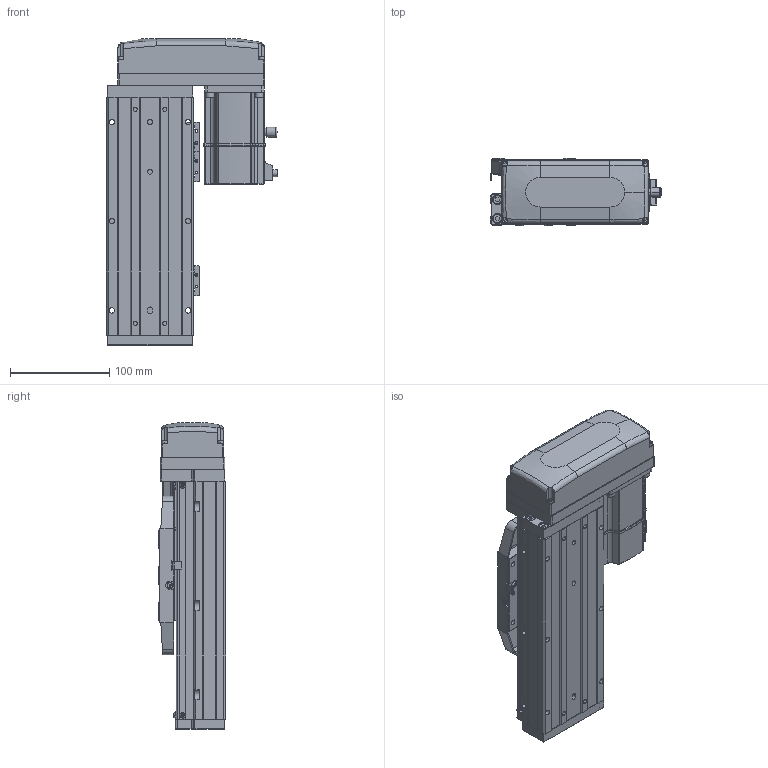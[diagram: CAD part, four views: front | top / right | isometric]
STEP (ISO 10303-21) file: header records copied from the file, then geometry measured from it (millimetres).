
FILE_DESCRIPTION (( 'STEP AP203' ), '1' );
FILE_NAME ('CTHA86-50-BL-M20-C4L.step', '2022-04-26T00:51:23', ( '微软用户' ), ( '微软中国' ), 'SwSTEP 2.0', 'SolidWorks 2020', '' );
FILE_SCHEMA (( 'CONFIG_CONTROL_DESIGN' ));
Length unit declared in the file: millimetre
Products named in the file (21): GBT77-2000 M3×3; CTHA86-002; KTHA86-004; GBT 70.1-M3×20; CTHA86-031; KTHA86-005; GBT70.1 M5℅16; CTHA86-030; GB¨uT 70.2-M3¡Á5_M3¡Á6; GBT 70.1-M3×16; GBT 70.3-M3℅6; EE_SX911P_R; GBT 70.1-M3℅6; CTHA86-015-1_CTHA86-015-2; CTHA60-017; CTHA60-016; CTHA86-033; CTHA60-021; _X2_4E0983F1_X0_200W_1; CTHA86-50-BL-M20-C4L; KTHA86-001_240
Assembly tree (66 placements, depth 2):
  CTHA86-50-BL-M20-C4L
    KTHA86-001_240
    KTHA86-004
    KTHA86-005
    GB¨uT 70.2-M3¡Á5_M3¡Á6  x10
    EE_SX911P_R  x3
    CTHA60-017  x3
    CTHA60-021  x2
    GBT77-2000 M3×3  x6
    GBT 70.1-M3×20
    GBT70.1 M5℅16  x14
    GBT 70.1-M3×16  x5
    GBT 70.1-M3℅6  x6
    CTHA60-016  x2
    _X2_4E0983F1_X0_200W_1
    CTHA86-002
    CTHA86-031
    CTHA86-030  x2
    GBT 70.3-M3℅6  x4
    CTHA86-015-1_CTHA86-015-2
    CTHA86-033
Bounding box: 172.7 x 68 x 309 mm (x, y, z)
Volume: 1745355.9 mm3; surface area: 326154.2 mm2
Topology: 68 solids, 68 shells, 2666 faces, 6316 edges, 3880 vertices
Faces by surface type: plane 1391, cylinder 687, cone 357, torus 132, bspline 75, sphere 24
Entity records: 45205 total; most frequent: CARTESIAN_POINT 8835, DIRECTION 6969, ORIENTED_EDGE 6732, EDGE_CURVE 3366, AXIS2_PLACEMENT_3D 2398, LINE 2173, VECTOR 2173, VERTEX_POINT 2112
